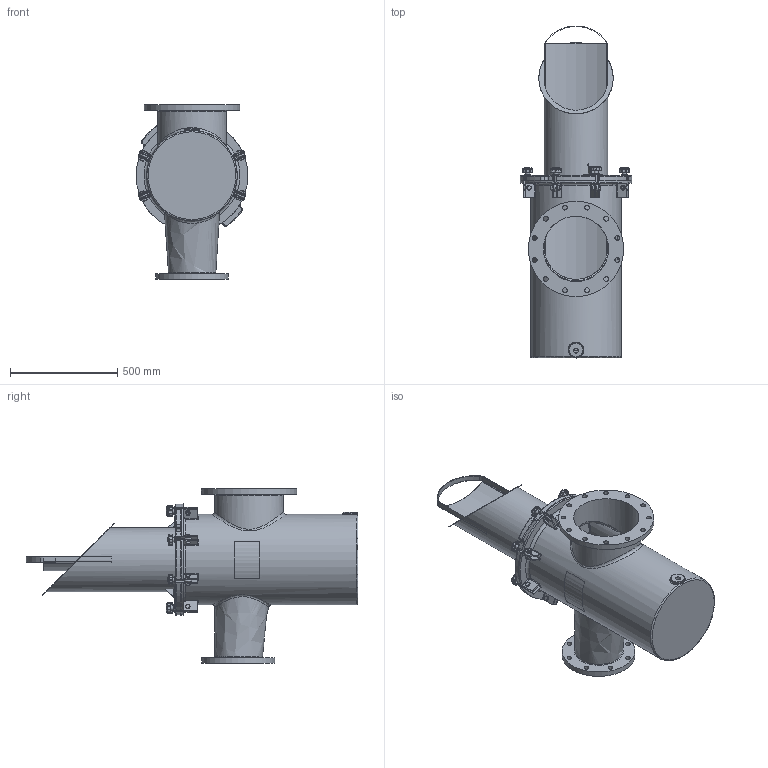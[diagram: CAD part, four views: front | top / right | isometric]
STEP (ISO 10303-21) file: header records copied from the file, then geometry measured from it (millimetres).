
FILE_DESCRIPTION(/* description */ ('300MM X 200MM FIBERGLASS STRAINER BODY'),/* implementation_level */ '2;1');
FILE_NAME(/* name */ 'C:\Users\r.kommineni.ext\Desktop\NB\CAD\Workspace\FG Reducing Strainer\Guardian FG Reducing H&L Strainer (Metric)_CLEARANCE VOLUME\STRAINER H&L 300MM X 200MM.stp',/* time_stamp */ '2017-06-09T13:33:06-04:00',/* author */ ('r.kommineni.ext'),/* organization */ (''),/* preprocessor_version */ 'ST-DEVELOPER v16.1',/* originating_system */ 'Autodesk Inventor 2016',/* authorisation */ '');
FILE_SCHEMA (('CONFIG_CONTROL_DESIGN'));
Length unit declared in the file: inch
Products named in the file (25): NBFGBODY12X08MM; 150NBCVR20R2; 150NBGSK16R1; Perforated Basket 16in; Bride (Ring) 16in; Baffle 16in; Handle 16in; Bottom Strainer 16in; BRACESTRCVR16_Welds; BRACE (BASE) FOR 16 BODY; BRACE (PROJ) FOR 16 BODY; Bumper; BRACESTRCVR16; Nut- 1_2  UNC; Bolt-1_2 x 1 1_2  UNC; EyeBolt; Washer; Knob M10; Securing Assembly For FG  with Brace; Securing Assembly For FG without Brace; Label for 16.625 inch (Right); Label for 16.625 inch (Left); NBBSK10T316_clearance; NBBSK10T316_clearance_1; STRAINER H&L 300MM X 200MM
Assembly tree (40 placements, depth 3):
  STRAINER H&L 300MM X 200MM
    NBFGBODY12X08MM
    150NBCVR20R2
    150NBGSK16R1
    NBBSK10T316_clearance_1
      Perforated Basket 16in
      Bride (Ring) 16in
      Baffle 16in
      Handle 16in
      Bottom Strainer 16in
      NBBSK10T316_clearance
    BRACESTRCVR16
      BRACESTRCVR16_Welds
      BRACE (BASE) FOR 16 BODY
      BRACE (PROJ) FOR 16 BODY
      Bumper  x6
    Securing Assembly For FG  with Brace  x2
      Nut- 1_2  UNC
      Bolt-1_2 x 1 1_2  UNC
      EyeBolt
      Washer
      Knob M10
    Securing Assembly For FG without Brace  x6
      Nut- 1_2  UNC
      Bolt-1_2 x 1 1_2  UNC
      EyeBolt
      Washer
      Knob M10
    Label for 16.625 inch (Right)
    Label for 16.625 inch (Left)
Bounding box: 520.7 x 1548.8 x 812.8 mm (x, y, z)
Volume: 23416164.3 mm3; surface area: 6644298.7 mm2
Topology: 66 solids, 69 shells, 1832 faces, 4192 edges, 2483 vertices
Faces by surface type: cylinder 671, plane 514, cone 184, torus 166, sphere 158, bspline 139
Full cylindrical faces by diameter (mm): 3.175 x11, 6.35 x2, 8.382 x8, 9.525 x16, 10.592 x8, 12.7 x8, 15.875 x16, 19 x16, 19.05 x8, 22.098 x20, 22.809 x1, 31.75 x8, 68.263 x1, 295.275 x2, 298.45 x2, 300.99 x1, 304.8 x1, 320.675 x1, 340.36 x1, 406.4 x2, 409.575 x1, 415.925 x1, 422.275 x1, 444.5 x1, 457.2 x1, 463.55 x1
Entity records: 35658 total; most frequent: CARTESIAN_POINT 12155, DIRECTION 4874, ORIENTED_EDGE 4405, EDGE_CURVE 2227, AXIS2_PLACEMENT_3D 1989, VERTEX_POINT 1399, EDGE_LOOP 1197, ADVANCED_FACE 982
